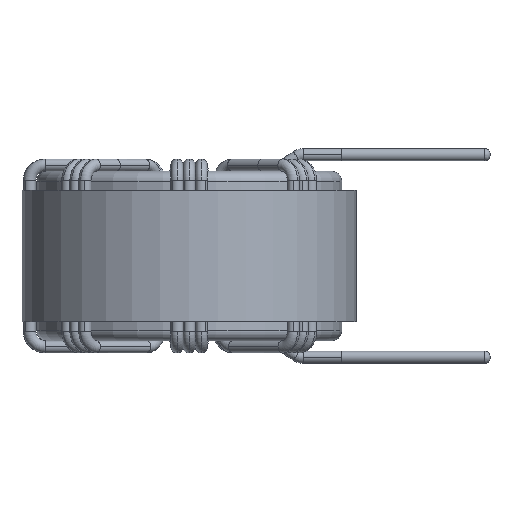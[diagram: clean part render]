
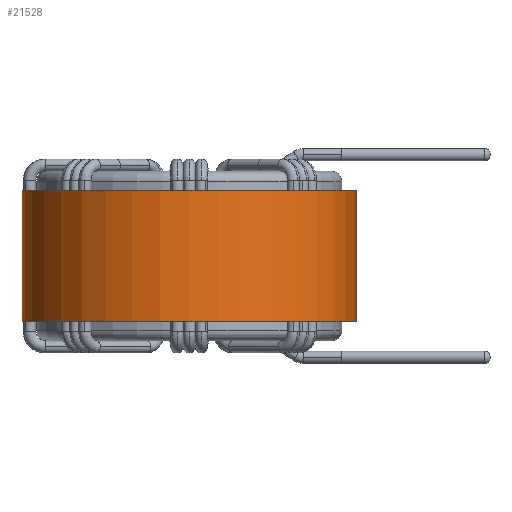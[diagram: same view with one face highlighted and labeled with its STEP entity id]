
A CAD part, front view. The second image highlights one B-rep face of the part: STEP entity #21528.
In plain terms, the highlighted cylindrical face has radius 31.755 mm (diameter 63.51 mm), a partial arc.
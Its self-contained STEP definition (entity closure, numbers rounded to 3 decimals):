
#208 = CARTESIAN_POINT ( 'NONE',  ( 31.755, 0., 12.5 ) ) ;
#724 = CYLINDRICAL_SURFACE ( 'NONE', #8851, 31.755 ) ;
#1805 = EDGE_CURVE ( 'NONE', #14172, #40162, #44110, .T. ) ;
#2199 = AXIS2_PLACEMENT_3D ( 'NONE', #42793, #37185, #9350 ) ;
#4046 = DIRECTION ( 'NONE',  ( 1., 0., 0. ) ) ;
#4212 = CARTESIAN_POINT ( 'NONE',  ( -31.755, 0., 12.5 ) ) ;
#6730 = ORIENTED_EDGE ( 'NONE', *, *, #1805, .F. ) ;
#7692 = EDGE_CURVE ( 'NONE', #28085, #22864, #22095, .T. ) ;
#8851 = AXIS2_PLACEMENT_3D ( 'NONE', #31778, #21554, #25210 ) ;
#9233 = DIRECTION ( 'NONE',  ( 0., 0., -1. ) ) ;
#9350 = DIRECTION ( 'NONE',  ( 1., 0., 0. ) ) ;
#12091 = FACE_OUTER_BOUND ( 'NONE', #12195, .T. ) ;
#12195 = EDGE_LOOP ( 'NONE', ( #6730, #42262, #36227, #27762 ) ) ;
#12945 = VECTOR ( 'NONE', #9233, 1000. ) ;
#14172 = VERTEX_POINT ( 'NONE', #208 ) ;
#18057 = CARTESIAN_POINT ( 'NONE',  ( 0., 0., -12.5 ) ) ;
#18339 = DIRECTION ( 'NONE',  ( 0., 0., -1. ) ) ;
#21528 = ADVANCED_FACE ( 'NONE', ( #12091 ), #724, .T. ) ;
#21554 = DIRECTION ( 'NONE',  ( 0., 0., -1. ) ) ;
#22095 = LINE ( 'NONE', #22646, #12945 ) ;
#22646 = CARTESIAN_POINT ( 'NONE',  ( -31.755, 0., 12.5 ) ) ;
#22864 = VERTEX_POINT ( 'NONE', #36168 ) ;
#24750 = DIRECTION ( 'NONE',  ( 0., 0., 1. ) ) ;
#25210 = DIRECTION ( 'NONE',  ( -1., 0., 0. ) ) ;
#26865 = VECTOR ( 'NONE', #18339, 1000. ) ;
#27305 = AXIS2_PLACEMENT_3D ( 'NONE', #18057, #24750, #4046 ) ;
#27311 = CIRCLE ( 'NONE', #2199, 31.755 ) ;
#27762 = ORIENTED_EDGE ( 'NONE', *, *, #32586, .T. ) ;
#28085 = VERTEX_POINT ( 'NONE', #4212 ) ;
#28709 = EDGE_CURVE ( 'NONE', #28085, #14172, #27311, .T. ) ;
#31778 = CARTESIAN_POINT ( 'NONE',  ( 0., 0., 12.5 ) ) ;
#32586 = EDGE_CURVE ( 'NONE', #22864, #40162, #44100, .T. ) ;
#35424 = CARTESIAN_POINT ( 'NONE',  ( 31.755, 0., -12.5 ) ) ;
#36168 = CARTESIAN_POINT ( 'NONE',  ( -31.755, 0., -12.5 ) ) ;
#36227 = ORIENTED_EDGE ( 'NONE', *, *, #7692, .T. ) ;
#37185 = DIRECTION ( 'NONE',  ( 0., 0., 1. ) ) ;
#38987 = CARTESIAN_POINT ( 'NONE',  ( 31.755, 0., 12.5 ) ) ;
#40162 = VERTEX_POINT ( 'NONE', #35424 ) ;
#42262 = ORIENTED_EDGE ( 'NONE', *, *, #28709, .F. ) ;
#42793 = CARTESIAN_POINT ( 'NONE',  ( 0., 0., 12.5 ) ) ;
#44100 = CIRCLE ( 'NONE', #27305, 31.755 ) ;
#44110 = LINE ( 'NONE', #38987, #26865 ) ;
